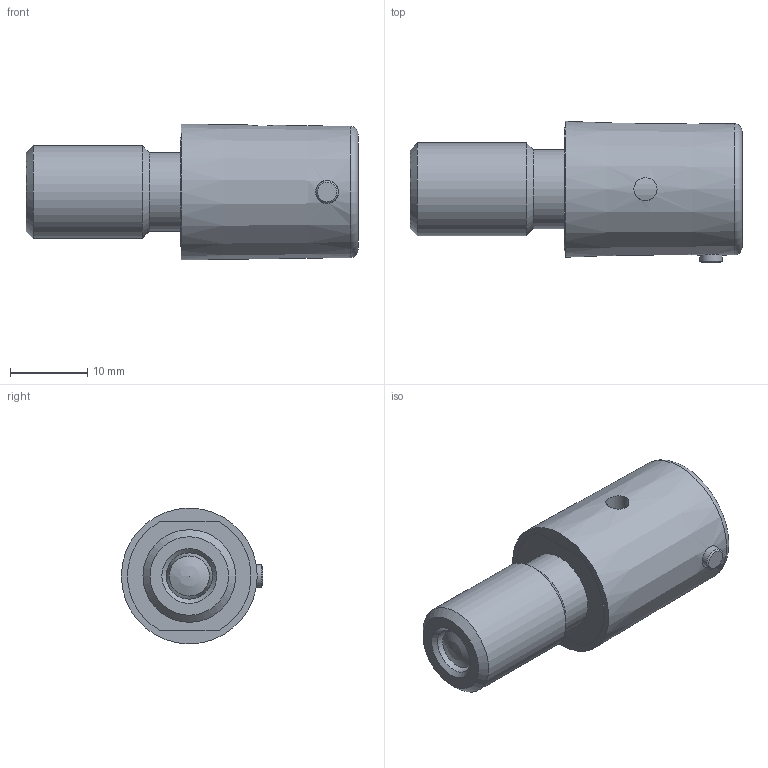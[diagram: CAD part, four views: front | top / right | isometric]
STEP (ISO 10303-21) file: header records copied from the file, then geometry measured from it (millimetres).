
FILE_DESCRIPTION( ( 'STEP AP203' ), '1' );
FILE_NAME( 'C:/Temp/Ganter_Step_05_03_2020/data/3_1/gn816_1/gn_816_1_b/Locking plunger GN 816.1-6-M12x1,5-B (deactivated).stp', '2020-03-12T08:56:17', ( 'License CC BY-ND 4.0' ), ( 'CADENAS' ), ' ', 'PARTsolutions', ' ' );
FILE_SCHEMA( ( 'CONFIG_CONTROL_DESIGN' ) );
Length unit declared in the file: millimetre
Products named in the file (3): Locking plunger GN 816.1-6-M12x1,5-B (deactivated); _GN 816.1-6-M12x1,5-B(0)-b2; _GN 816.1-6-M12x1,5-Bb1
Assembly tree (2 placements, depth 2):
  Locking plunger GN 816.1-6-M12x1,5-B (deactivated)
    _GN 816.1-6-M12x1,5-B(0)-b2
    _GN 816.1-6-M12x1,5-Bb1
Bounding box: 43 x 18.3 x 17.59 mm (x, y, z)
Volume: 6099.3 mm3; surface area: 4630.7 mm2
Topology: 2 solids, 2 shells, 41 faces, 79 edges, 49 vertices
Faces by surface type: cylinder 14, plane 13, cone 11, torus 2, sphere 1
Full cylindrical faces by diameter (mm): 2.9 x2, 3 x2, 6 x2, 7 x1, 8 x1, 8.1 x1, 10.2 x1, 11.1 x1, 12 x1
Entity records: 1290 total; most frequent: CARTESIAN_POINT 443, DIRECTION 166, ORIENTED_EDGE 98, EDGE_LOOP 80, AXIS2_PLACEMENT_3D 79, FACE_OUTER_BOUND 55, EDGE_CURVE 49, VERTEX_POINT 46
